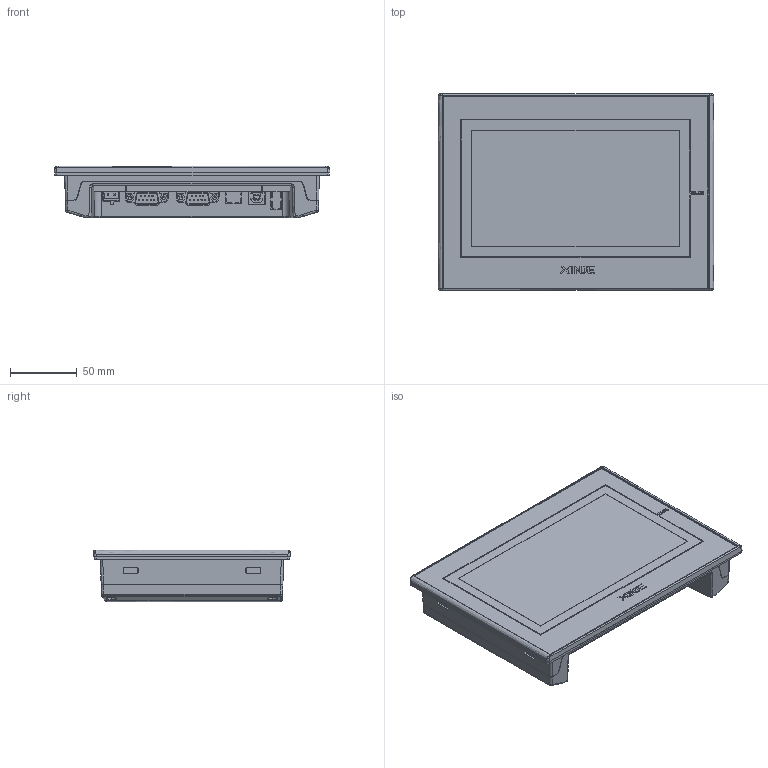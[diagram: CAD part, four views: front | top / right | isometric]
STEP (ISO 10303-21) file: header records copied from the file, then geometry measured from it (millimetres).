
FILE_DESCRIPTION(/* description */ (''),/* implementation_level */ '2;1');
FILE_NAME(/* name */ 'TG765G-ZT（降本）',/* time_stamp */ '2023-03-03T11:47:42+08:00',/* author */ (''),/* organization */ (''),/* preprocessor_version */ 'ST-DEVELOPER v16.5',/* originating_system */ '',/* authorisation */ '');
FILE_SCHEMA (('AUTOMOTIVE_DESIGN'));
Products named in the file (1): Document
Bounding box: 206 x 147 x 38.82 mm (x, y, z)
Volume: 1112430.9 mm3; surface area: 235091.2 mm2
Topology: 203 solids, 203 shells, 4643 faces, 11928 edges, 7838 vertices
Faces by surface type: plane 3646, bspline 997
Entity records: 137395 total; most frequent: CARTESIAN_POINT 55627, ORIENTED_EDGE 23828, EDGE_CURVE 11914, B_SPLINE_CURVE_WITH_KNOTS 10376, VERTEX_POINT 7838, EDGE_LOOP 4866, ADVANCED_FACE 4643, FACE_OUTER_BOUND 4643
